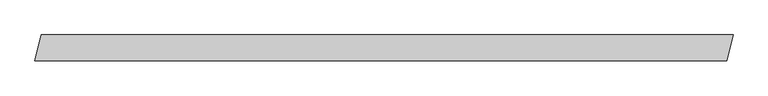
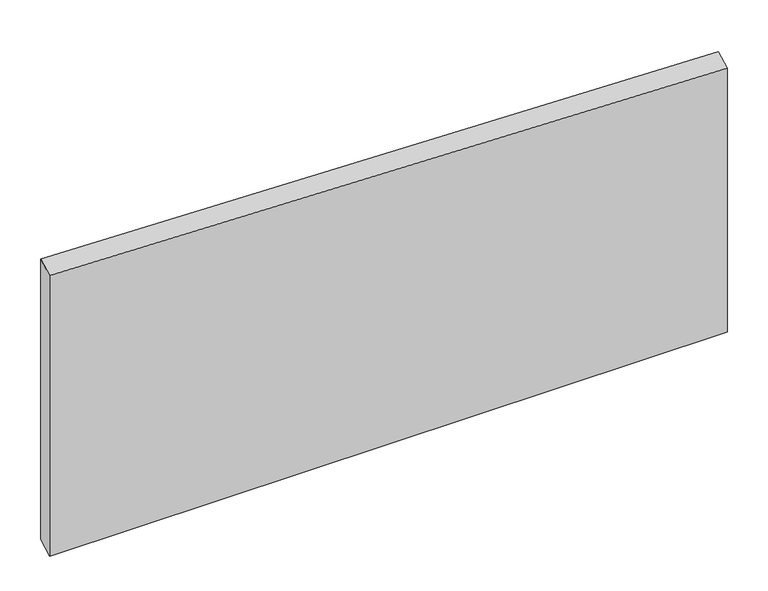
"""IFC4 building model written with IfcOpenShell, lengths in millimetres: proxy geometry, Piédroit W : piédroit W."""

from ifc_helpers import new_model, si_unit, origin, place, context, project, spatial, faceted_brep, source, transform, mapped, element, save


def generic_models_99b42db8(model_context):
    return source(origin(), model_context, "Body", "Brep", [
        faceted_brep([(6038.8666255, 2900.0, 5599.249243), (5943.3333812, 2500.0, 5601.7685471), (5943.3333812, 2500.0, 1200.0), (6038.8666255, 2900.0, 1200.0), (-4653.6345839, 2900.0, 5881.2208475), (-4653.6345839, 2900.0, 1200.0), (-4749.1678281, 2500.0, 1200.0), (-4749.1678281, 2500.0, 5883.7401516)], [[[0, 1, 2, 3]], [[4, 5, 6, 7]], [[4, 7, 1, 0]], [[7, 6, 2, 1]], [[6, 5, 3, 2]], [[5, 4, 0, 3]]]),
    ])


if __name__ == "__main__":
    model = new_model("IFC4")
    model_context = context("Model", 3, world=origin())
    ifc_project = project(units=[si_unit("LENGTHUNIT", "METRE", prefix="MILLI")], contexts=[model_context])
    site = spatial("IfcSite", under=ifc_project)
    building = spatial("IfcBuilding", under=site)
    placement = place(None, origin())
    generic_models_shape = generic_models_99b42db8(model_context)
    element("IfcBuildingElementProxy", 1, Name="Piédroit W : piédroit W", ObjectType="Piédroit W : piédroit W", at=placement, inside=building, context=model_context, shape_type="MappedRepresentation", body=[
        mapped(generic_models_shape, transform((0.0, 0.0, 0.0), x_axis=(1.0, 0.0, 0.0), y_axis=(0.0, 1.0, 0.0), z_axis=(0.0, 0.0, 1.0))),
    ])
    save(model, "model.ifc")
